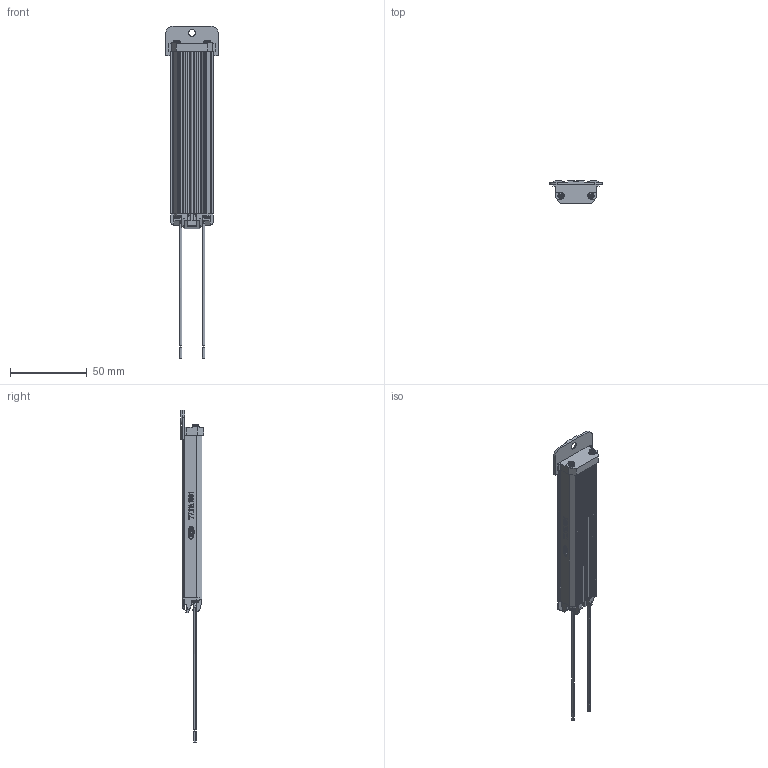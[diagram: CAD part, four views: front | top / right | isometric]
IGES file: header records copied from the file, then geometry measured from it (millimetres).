
Global section: file name: C:\CoreTechnologie\3D-in\020Y501Y0A.igs; native system: CT CoreTechnologie 3D Evolution; preprocessor: 2006; author: assmuth; date: 1170410.141810; units: metre
Bounding box: 34.4 x 15.15 x 216.49 mm (x, y, z)
Volume: 22203.7 mm3; surface area: 28920.2 mm2
Topology: 11 solids, 11 shells, 668 faces, 1775 edges, 1164 vertices
Faces by surface type: plane 456, revolution 195, extrusion 17
